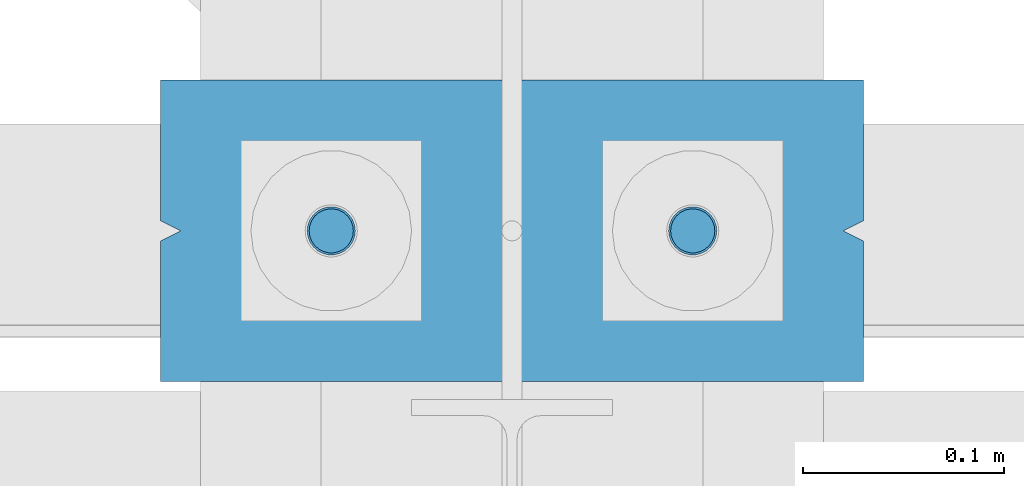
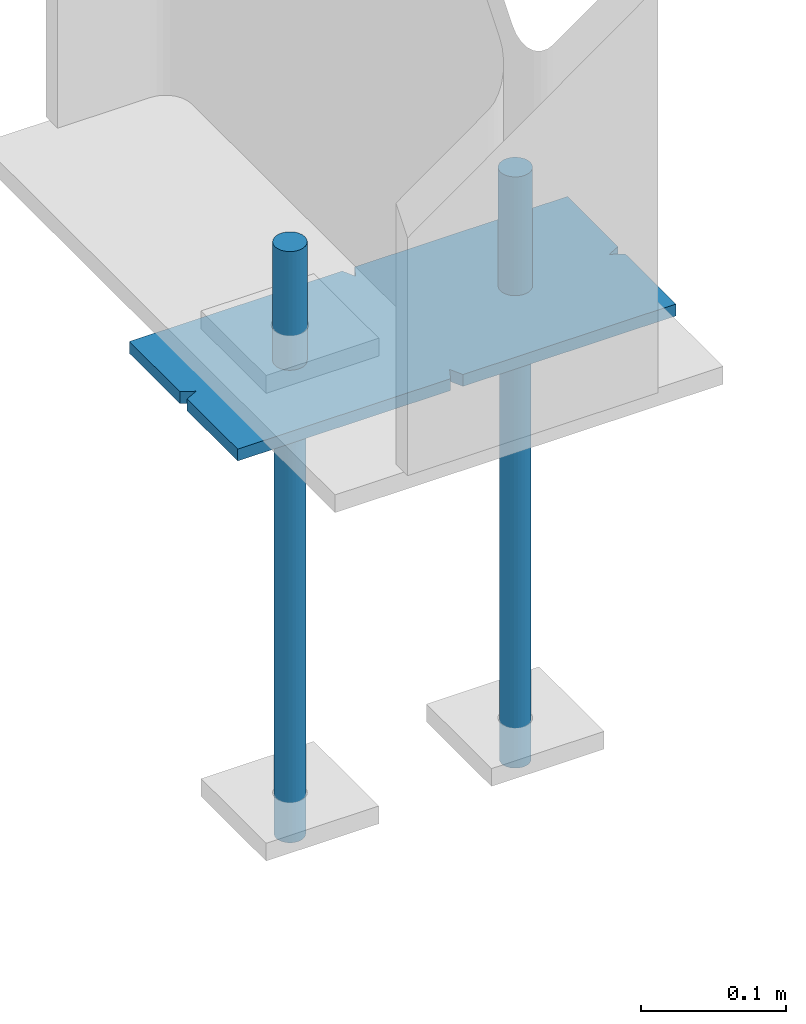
# One storey, part 63 of 123: 5 discrete accessories, 1 element without a shape of its own.
"""IFC2X3 building model written with IfcOpenShell, lengths in millimetres."""

from ifc_helpers import new_model, si_unit, frame, origin_with_axes, origin_2d_with_axis, place, context, subcontext, project, spatial, polyline, circle, outline, extrude, boolean, material, type_object, element, aggregate, save


model = new_model("IFC2X3")

# Units and contexts
model_context = context("Model", 3, precision=1e-05, world=origin_with_axes())
body_context = subcontext(model_context, "Body", "Model", "MODEL_VIEW")
ifc_project = project(units=[si_unit("LENGTHUNIT", "METRE", prefix="MILLI"), si_unit("AREAUNIT", "SQUARE_METRE"), si_unit("VOLUMEUNIT", "CUBIC_METRE"), si_unit("MASSUNIT", "GRAM", prefix="KILO"), si_unit("TIMEUNIT", "SECOND"), si_unit("PLANEANGLEUNIT", "RADIAN"), si_unit("SOLIDANGLEUNIT", "STERADIAN"), si_unit("THERMODYNAMICTEMPERATUREUNIT", "DEGREE_CELSIUS"), si_unit("LUMINOUSINTENSITYUNIT", "LUMEN")], contexts=[model_context])

# Site, building, storey
site_placement = place(None, origin_with_axes())
site = spatial("IfcSite", under=ifc_project, at=site_placement, Name="Undefined", CompositionType="ELEMENT")
building_placement = place(site_placement, origin_with_axes())
building = spatial("IfcBuilding", under=site, at=building_placement, Name="Undefined", CompositionType="ELEMENT")
storey_placement = place(building_placement, origin_with_axes())
storey = spatial("IfcBuildingStorey", under=building, at=storey_placement, Name="Undefined", CompositionType="ELEMENT", Elevation=0.0)

# Assembly, discrete accessories
assembly_placement = place(storey_placement, origin_with_axes())
assembly = element("IfcElementAssembly", 1, at=assembly_placement, inside=storey, Name="Steel Assembly", AssemblyPlace="NOTDEFINED", PredefinedType="RIGID_FRAME")
ifc_material = material(Name="STEEL/S235-E24")
discrete_accessory_type_1 = type_object("IfcDiscreteAccessoryType", Name="TIGE D'ANCRAGE")
discrete_accessory_1_placement = place(assembly_placement, frame((4089.99715044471, 0.0, -150.0), z_axis=(0.0, 1.0, 0.0), x_axis=(0.0, 0.0, -1.0)))
discrete_accessory_1 = element("IfcDiscreteAccessory", 2, at=discrete_accessory_1_placement, type_object=discrete_accessory_type_1, material=ifc_material, Name="TIGE D'ANCRAGE", ObjectType="D24", context=body_context, shape_type="SweptSolid", body=[
    extrude(circle(Radius=12.0, at=origin_2d_with_axis()), frame((150.0, 0.0, 0.0), z_axis=(-1.0, 0.0, 0.0), x_axis=(0.0, -1.0, 0.0)), (0.0, 0.0, 1.0), 150.0),
])
discrete_accessory_2_placement = place(assembly_placement, frame((4089.99715044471, 0.0, -300.0), z_axis=(0.0, 1.0, 0.0), x_axis=(0.0, 0.0, -1.0)))
discrete_accessory_2 = element("IfcDiscreteAccessory", 3, at=discrete_accessory_2_placement, type_object=discrete_accessory_type_1, material=ifc_material, Name="TIGE D'ANCRAGE", ObjectType="D22", context=body_context, shape_type="SweptSolid", body=[
    extrude(circle(Radius=11.0, at=origin_2d_with_axis()), frame((350.0, 0.0, 0.0), z_axis=(-1.0, 0.0, 0.0), x_axis=(0.0, -1.0, 0.0)), (0.0, 0.0, 1.0), 350.0),
])
discrete_accessory_3_placement = place(assembly_placement, frame((4269.99715044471, 0.0, -150.0), z_axis=(0.0, 1.0, 0.0), x_axis=(0.0, 0.0, -1.0)))
discrete_accessory_3 = element("IfcDiscreteAccessory", 4, at=discrete_accessory_3_placement, type_object=discrete_accessory_type_1, material=ifc_material, Name="TIGE D'ANCRAGE", ObjectType="D24", context=body_context, shape_type="SweptSolid", body=[
    extrude(circle(Radius=12.0, at=origin_2d_with_axis()), frame((150.0, 0.0, 0.0), z_axis=(-1.0, 0.0, 0.0), x_axis=(0.0, -1.0, 0.0)), (0.0, 0.0, 1.0), 150.0),
])
discrete_accessory_4_placement = place(assembly_placement, frame((4269.99715044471, 0.0, -300.0), z_axis=(0.0, 1.0, 0.0), x_axis=(0.0, 0.0, -1.0)))
discrete_accessory_4 = element("IfcDiscreteAccessory", 5, at=discrete_accessory_4_placement, type_object=discrete_accessory_type_1, material=ifc_material, Name="TIGE D'ANCRAGE", ObjectType="D22", context=body_context, shape_type="SweptSolid", body=[
    extrude(circle(Radius=11.0, at=origin_2d_with_axis()), frame((350.0, 0.0, 0.0), z_axis=(-1.0, 0.0, 0.0), x_axis=(0.0, -1.0, 0.0)), (0.0, 0.0, 1.0), 350.0),
])
discrete_accessory_type_2 = type_object("IfcDiscreteAccessoryType", Name="PRESCELLEMENT PS24")
discrete_accessory_5_placement = place(assembly_placement, frame((4355.0, 0.0, -255.0), z_axis=(0.0, 0.0, 1.0), x_axis=(-1.0, 0.0, 0.0)))
discrete_accessory_5 = element("IfcDiscreteAccessory", 6, at=discrete_accessory_5_placement, type_object=discrete_accessory_type_2, material=ifc_material, Name="PRESCELLEMENT PS24", ObjectType="PL10*150", context=body_context, shape_type="CSG", body=[
    boolean("DIFFERENCE", boolean("DIFFERENCE", boolean("DIFFERENCE", boolean("DIFFERENCE", extrude(outline(polyline([(175.000000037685, -65.0000000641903), (169.999999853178, -74.9999999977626), (0.0, -75.0), (0.0, -5.0), (9.99999993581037, -3.76858224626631e-08), (0.0, 5.00000014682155), (0.0, 75.0), (170.0, 75.0), (174.999999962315, 65.0000000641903), (180.000000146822, 75.0), (350.0, 75.0), (350.0, 5.00000018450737), (340.0, 0.0), (350.0, -4.99999996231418), (350.0, -75.0), (180.0, -75.0), (175.000000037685, -65.0000000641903)])), frame((0.0, 0.0, -5.0), z_axis=(0.0, 0.0, 1.0), x_axis=(1.0, 0.0, 0.0)), (0.0, 0.0, 1.0), 10.0), extrude(outline(polyline([(0.0, 0.0), (11.1803398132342, 1.2732925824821e-11), (4.47213602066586, 8.94427204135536), (0.0, 0.0)])), frame((0.0, -5.0, -7.5), z_axis=(0.0, 0.0, 1.0), x_axis=(0.89442719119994, 0.44721359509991, 0.0)), (0.0, 0.0, 1.0), 15.0)), extrude(outline(polyline([(0.0, 0.0), (11.1803398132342, 1.2732925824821e-11), (4.47213602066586, 8.94427204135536), (0.0, 0.0)])), frame((180.0, -75.0, -7.5), z_axis=(0.0, 0.0, 1.0), x_axis=(-0.447213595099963, 0.894427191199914, 0.0)), (0.0, 0.0, 1.0), 15.0)), extrude(outline(polyline([(0.0, 0.0), (11.1803398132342, 1.2732925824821e-11), (6.70820379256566, 8.94427204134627), (0.0, 0.0)])), frame((340.0, 0.0, -7.5), z_axis=(0.0, 0.0, 1.0), x_axis=(0.89442719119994, -0.44721359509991, 0.0)), (0.0, 0.0, 1.0), 15.0)), extrude(outline(polyline([(0.0, 0.0), (11.1803398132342, 1.2732925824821e-11), (4.47213602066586, 8.94427204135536), (0.0, 0.0)])), frame((170.0, 75.0, -7.5), z_axis=(0.0, 0.0, 1.0), x_axis=(0.447213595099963, -0.894427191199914, 0.0)), (0.0, 0.0, 1.0), 15.0)),
])
aggregate(assembly, [discrete_accessory_1, discrete_accessory_2, discrete_accessory_3, discrete_accessory_4, discrete_accessory_5])

save(model, "model.ifc")
